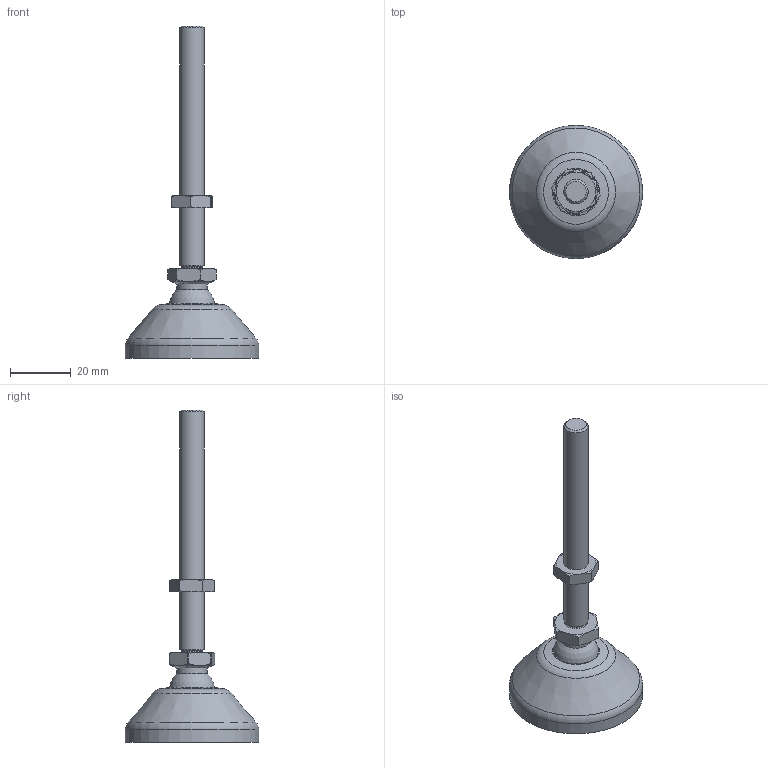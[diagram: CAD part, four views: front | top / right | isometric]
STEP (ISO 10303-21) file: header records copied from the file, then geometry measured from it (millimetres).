
FILE_DESCRIPTION(('STEP AP242'),'1');
FILE_NAME('TAPID45M08080PA.stp','2026-10-12T12:36:13',(' '),(' '),'Spatial InterOp 3D',' ',' ');
FILE_SCHEMA(('AP242_MANAGED_MODEL_BASED_3D_ENGINEERING_MIM_LF {1 0 10303 442 1 1 4}'));
Length unit declared in the file: millimetre
Products named in the file (4): TAPID45M08080PA; Ecrou H DIN 439 M8; Tige filetée M8x80 (Ø15); Embase PA Ø45 (Ø15)
Assembly tree (3 placements, depth 2):
  TAPID45M08080PA
    Ecrou H DIN 439 M8
    Tige filetée M8x80 (Ø15)
    Embase PA Ø45 (Ø15)
Bounding box: 44 x 44 x 109.5 mm (x, y, z)
Volume: 22102.2 mm3; surface area: 8875.7 mm2
Topology: 3 solids, 4 shells, 81 faces, 176 edges, 105 vertices
Faces by surface type: torus 30, plane 22, cylinder 20, cone 7, sphere 2
Full cylindrical faces by diameter (mm): 6.75 x1, 6.8 x1, 8 x1, 10 x1, 15 x1, 15.5 x1, 34 x1, 44 x1
Entity records: 3339 total; most frequent: CARTESIAN_POINT 871, DIRECTION 346, ORIENTED_EDGE 296, AXIS2_PLACEMENT_3D 161, EDGE_CURVE 148, EDGE_LOOP 108, VERTEX_POINT 100, FACE_OUTER_BOUND 95
